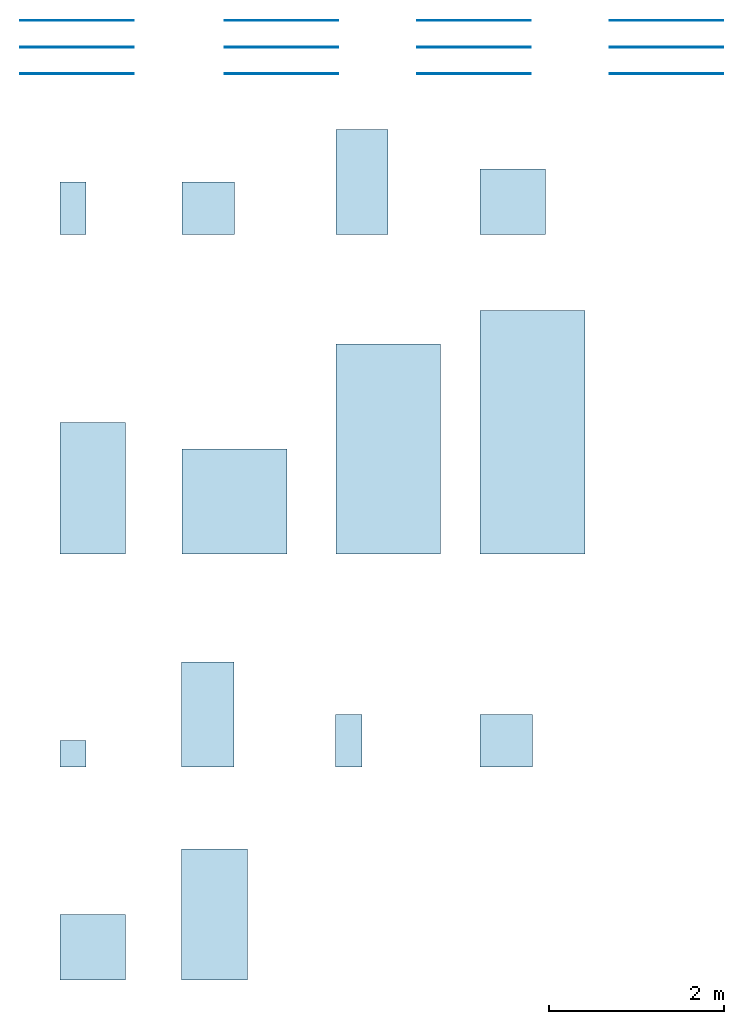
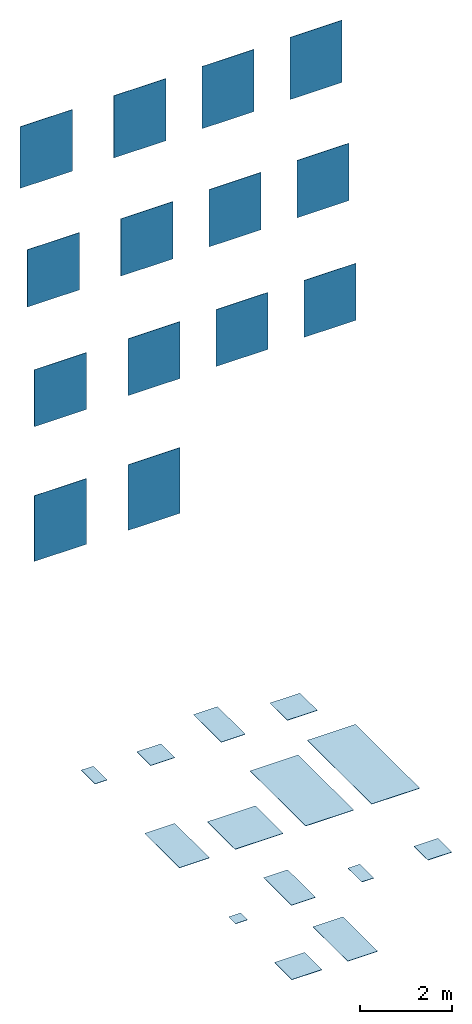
# One storey: 14 slabs, 14 walls.
"""IFC2X3 building model written with IfcOpenShell, lengths in millimetres."""

from ifc_helpers import new_model, entity, si_unit, converted_unit, derived_unit, direction, frame, frame_2d, origin, origin_2d_with_axis, place, context, subcontext, project, spatial, rectangle, extrude, material, layer, layer_set, layer_usage, type_object, element, save


model = new_model("IFC2X3")

# Units and contexts
model_context = context("Model", 3, precision=0.01, world=origin(), true_north=direction((6.12303176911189e-17, 1.0)))
body_context = subcontext(model_context, "Body", "Model", "MODEL_VIEW")
ifc_project = project(units=[si_unit("LENGTHUNIT", "METRE", prefix="MILLI"), si_unit("AREAUNIT", "SQUARE_METRE"), si_unit("VOLUMEUNIT", "CUBIC_METRE"), converted_unit("PLANEANGLEUNIT", "DEGREE", entity("IfcRatioMeasure", 0.0174532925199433), si_unit("PLANEANGLEUNIT", "RADIAN"), dimensions=[0, 0, 0, 0, 0, 0, 0]), si_unit("MASSUNIT", "GRAM", prefix="KILO"), derived_unit("MASSDENSITYUNIT", [(si_unit("MASSUNIT", "GRAM", prefix="KILO"), 1), (si_unit("LENGTHUNIT", "METRE"), -3)]), derived_unit("MOMENTOFINERTIAUNIT", [(si_unit("LENGTHUNIT", "METRE"), 4)]), si_unit("TIMEUNIT", "SECOND"), si_unit("FREQUENCYUNIT", "HERTZ"), si_unit("THERMODYNAMICTEMPERATUREUNIT", "DEGREE_CELSIUS"), derived_unit("THERMALTRANSMITTANCEUNIT", [(si_unit("MASSUNIT", "GRAM", prefix="KILO"), 1), (si_unit("THERMODYNAMICTEMPERATUREUNIT", "KELVIN"), -1), (si_unit("TIMEUNIT", "SECOND"), -3)]), derived_unit("VOLUMETRICFLOWRATEUNIT", [(si_unit("LENGTHUNIT", "METRE"), 3), (si_unit("TIMEUNIT", "SECOND"), -1)]), si_unit("ELECTRICCURRENTUNIT", "AMPERE"), si_unit("ELECTRICVOLTAGEUNIT", "VOLT"), si_unit("POWERUNIT", "WATT"), si_unit("FORCEUNIT", "NEWTON", prefix="KILO"), si_unit("ILLUMINANCEUNIT", "LUX"), si_unit("LUMINOUSFLUXUNIT", "LUMEN"), si_unit("LUMINOUSINTENSITYUNIT", "CANDELA"), derived_unit("USERDEFINED", [(si_unit("MASSUNIT", "GRAM", prefix="KILO"), -1), (si_unit("LENGTHUNIT", "METRE"), -2), (si_unit("TIMEUNIT", "SECOND"), 3), (si_unit("LUMINOUSFLUXUNIT", "LUMEN"), 1)]), derived_unit("LINEARVELOCITYUNIT", [(si_unit("LENGTHUNIT", "METRE"), 1), (si_unit("TIMEUNIT", "SECOND"), -1)]), si_unit("PRESSUREUNIT", "PASCAL"), derived_unit("USERDEFINED", [(si_unit("LENGTHUNIT", "METRE"), -2), (si_unit("MASSUNIT", "GRAM", prefix="KILO"), 1), (si_unit("TIMEUNIT", "SECOND"), -2)]), derived_unit("LINEARFORCEUNIT", [(si_unit("MASSUNIT", "GRAM", prefix="KILO"), 1), (si_unit("LENGTHUNIT", "METRE"), 1), (si_unit("TIMEUNIT", "SECOND"), -2), (si_unit("LENGTHUNIT", "METRE"), -1)]), derived_unit("PLANARFORCEUNIT", [(si_unit("MASSUNIT", "GRAM", prefix="KILO"), 1), (si_unit("LENGTHUNIT", "METRE"), 1), (si_unit("TIMEUNIT", "SECOND"), -2), (si_unit("LENGTHUNIT", "METRE"), -2)])], contexts=[model_context])

# Site, building, storey
site_placement = place(None, origin())
site = spatial("IfcSite", under=ifc_project, at=site_placement, Name="Default", CompositionType="ELEMENT")
building_placement = place(site_placement, origin())
building = spatial("IfcBuilding", under=site, at=building_placement, CompositionType="ELEMENT")
storey_placement = place(building_placement, origin())
storey = spatial("IfcBuildingStorey", under=building, at=storey_placement, Name="Level 0", CompositionType="ELEMENT", Elevation=0.0)

# Slabs
ifc_material_1 = material(Name="Prestigio-Arcadia-Lucido-60x120 NS01")
ifc_layer_1 = layer(ifc_material_1, 9.0)
ifc_material_2 = material(Name="<Unnamed>")
ifc_layer_2 = layer(ifc_material_2, 1.0)
ifc_layer_set_1 = layer_set([ifc_layer_1, ifc_layer_2], Name="Floor:Floor_Tiles_Refin-Prestigio-Arcadia-Lucido-60x120 NS01")
ifc_layer_usage_1 = layer_usage(ifc_layer_set_1, "AXIS3", "POSITIVE", 0.0)
slab_type_1 = type_object("IfcSlabType", Name="Floor:Floor_Tiles_Refin-Prestigio-Arcadia-Lucido-60x120 NS01", PredefinedType="FLOOR", material=ifc_layer_set_1)
slab_1_placement = place(storey_placement, origin())
element("IfcSlab", 1, at=slab_1_placement, inside=storey, type_object=slab_type_1, material=ifc_layer_usage_1, Name="Floor:Floor_Tiles_Refin-Prestigio-Arcadia-Lucido-60x120 NS01", ObjectType="Floor:Floor_Tiles_Refin-Prestigio-Arcadia-Lucido-60x120 NS01", PredefinedType="FLOOR", context=body_context, shape_type="SweptSolid", body=[
    extrude(rectangle(XDim=1200.0, YDim=600.0, at=frame_2d((0.0, 1.08002495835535e-12), x_axis=(1.0, 0.0))), frame((9827.18614186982, 6289.46237428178, 0.0), z_axis=(0.0, 0.0, -1.0), x_axis=(0.0, 1.0, 0.0)), (0.0, 0.0, 1.0), 10.0),
])
ifc_material_3 = material(Name="Prestigio-Arcadia-Lucido-30x60 NG99")
ifc_layer_3 = layer(ifc_material_3, 9.0)
ifc_layer_4 = layer(ifc_material_2, 1.0)
ifc_layer_set_2 = layer_set([ifc_layer_3, ifc_layer_4], Name="Floor:Floor_Tiles_Refin-Prestigio-Arcadia-Lucido-30x60 NG99")
ifc_layer_usage_2 = layer_usage(ifc_layer_set_2, "AXIS3", "POSITIVE", 0.0)
slab_type_2 = type_object("IfcSlabType", Name="Floor:Floor_Tiles_Refin-Prestigio-Arcadia-Lucido-30x60 NG99", PredefinedType="FLOOR", material=ifc_layer_set_2)
slab_2_placement = place(storey_placement, origin())
element("IfcSlab", 2, at=slab_2_placement, inside=storey, type_object=slab_type_2, material=ifc_layer_usage_2, Name="Floor:Floor_Tiles_Refin-Prestigio-Arcadia-Lucido-30x60 NG99", ObjectType="Floor:Floor_Tiles_Refin-Prestigio-Arcadia-Lucido-30x60 NG99", PredefinedType="FLOOR", context=body_context, shape_type="SweptSolid", body=[
    extrude(rectangle(XDim=600.0, YDim=300.0, at=frame_2d((0.0, -5.40012479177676e-13), x_axis=(1.0, 0.0))), frame((6524.37520617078, 5989.4623742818, 0.0), z_axis=(0.0, 0.0, -1.0), x_axis=(0.0, 1.0, 0.0)), (0.0, 0.0, 1.0), 10.0),
])
ifc_material_4 = material(Name="Prestigio-Arcadia-Lucido-120x240 MU09")
ifc_layer_5 = layer(ifc_material_4, 9.0)
ifc_layer_6 = layer(ifc_material_2, 1.0)
ifc_layer_set_3 = layer_set([ifc_layer_5, ifc_layer_6], Name="Floor:Floor_Tiles_Refin-Prestigio-Arcadia-Lucido-120x240 MU09")
ifc_layer_usage_3 = layer_usage(ifc_layer_set_3, "AXIS3", "POSITIVE", 0.0)
slab_type_3 = type_object("IfcSlabType", Name="Floor:Floor_Tiles_Refin-Prestigio-Arcadia-Lucido-120x240 MU09", PredefinedType="FLOOR", material=ifc_layer_set_3)
slab_3_placement = place(storey_placement, origin())
element("IfcSlab", 3, at=slab_3_placement, inside=storey, type_object=slab_type_3, material=ifc_layer_usage_3, Name="Floor:Floor_Tiles_Refin-Prestigio-Arcadia-Lucido-120x240 MU09", ObjectType="Floor:Floor_Tiles_Refin-Prestigio-Arcadia-Lucido-120x240 MU09", PredefinedType="FLOOR", context=body_context, shape_type="SweptSolid", body=[
    extrude(rectangle(XDim=2400.0, YDim=1200.0, at=frame_2d((-3.41060513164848e-13, 0.0), x_axis=(1.0, 0.0))), frame((10127.1861418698, 3239.46237428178, 0.0), z_axis=(0.0, 0.0, -1.0), x_axis=(0.0, 1.0, 0.0)), (0.0, 0.0, 1.0), 10.0),
])
ifc_material_5 = material(Name="Prestigio-Arcadia-Lucido-120x120 MU07")
ifc_layer_7 = layer(ifc_material_5, 9.0)
ifc_layer_8 = layer(ifc_material_2, 1.0)
ifc_layer_set_4 = layer_set([ifc_layer_7, ifc_layer_8], Name="Floor:Floor_Tiles_Refin-Prestigio-Arcadia-Lucido-120x120 MU07")
ifc_layer_usage_4 = layer_usage(ifc_layer_set_4, "AXIS3", "POSITIVE", 0.0)
slab_type_4 = type_object("IfcSlabType", Name="Floor:Floor_Tiles_Refin-Prestigio-Arcadia-Lucido-120x120 MU07", PredefinedType="FLOOR", material=ifc_layer_set_4)
slab_4_placement = place(storey_placement, origin())
element("IfcSlab", 4, at=slab_4_placement, inside=storey, type_object=slab_type_4, material=ifc_layer_usage_4, Name="Floor:Floor_Tiles_Refin-Prestigio-Arcadia-Lucido-120x120 MU07", ObjectType="Floor:Floor_Tiles_Refin-Prestigio-Arcadia-Lucido-120x120 MU07", PredefinedType="FLOOR", context=body_context, shape_type="SweptSolid", body=[
    extrude(rectangle(XDim=1200.0, YDim=1200.0, at=origin_2d_with_axis()), frame((8367.39240545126, 2639.4623742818, 0.0), z_axis=(0.0, 0.0, -1.0), x_axis=(0.0, 1.0, 0.0)), (0.0, 0.0, 1.0), 10.0),
])
ifc_material_6 = material(Name="Prestigio-Arcadia-Lucido-75x150 LU55")
ifc_layer_9 = layer(ifc_material_6, 9.0)
ifc_layer_10 = layer(ifc_material_2, 1.0)
ifc_layer_set_5 = layer_set([ifc_layer_9, ifc_layer_10], Name="Floor:Floor_Tiles_Refin-Prestigio-Arcadia-Lucido-75x150 LU55")
ifc_layer_usage_5 = layer_usage(ifc_layer_set_5, "AXIS3", "POSITIVE", 0.0)
slab_type_5 = type_object("IfcSlabType", Name="Floor:Floor_Tiles_Refin-Prestigio-Arcadia-Lucido-75x150 LU55", PredefinedType="FLOOR", material=ifc_layer_set_5)
slab_5_placement = place(storey_placement, origin())
element("IfcSlab", 5, at=slab_5_placement, inside=storey, type_object=slab_type_5, material=ifc_layer_usage_5, Name="Floor:Floor_Tiles_Refin-Prestigio-Arcadia-Lucido-75x150 LU55", ObjectType="Floor:Floor_Tiles_Refin-Prestigio-Arcadia-Lucido-75x150 LU55", PredefinedType="FLOOR", context=body_context, shape_type="SweptSolid", body=[
    extrude(rectangle(XDim=1500.0, YDim=750.000000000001, at=frame_2d((0.0, 1.08002495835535e-12), x_axis=(1.0, 0.0))), frame((6749.37520617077, 2789.4623742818, 0.0), z_axis=(0.0, 0.0, -1.0), x_axis=(0.0, 1.0, 0.0)), (0.0, 0.0, 1.0), 10.0),
])
ifc_material_7 = material(Name="Prestigio-Arcadia-Lucido-Mosaico-30x30 LX38")
ifc_layer_11 = layer(ifc_material_7, 9.0)
ifc_layer_12 = layer(ifc_material_2, 1.0)
ifc_layer_set_6 = layer_set([ifc_layer_11, ifc_layer_12], Name="Floor:Floor_Tiles_Refin-Prestigio-Arcadia-Lucido-Mosaico-30x30 LX38")
ifc_layer_usage_6 = layer_usage(ifc_layer_set_6, "AXIS3", "POSITIVE", 0.0)
slab_type_6 = type_object("IfcSlabType", Name="Floor:Floor_Tiles_Refin-Prestigio-Arcadia-Lucido-Mosaico-30x30 LX38", PredefinedType="FLOOR", material=ifc_layer_set_6)
slab_6_placement = place(storey_placement, origin())
element("IfcSlab", 6, at=slab_6_placement, inside=storey, type_object=slab_type_6, material=ifc_layer_usage_6, Name="Floor:Floor_Tiles_Refin-Prestigio-Arcadia-Lucido-Mosaico-30x30 LX38", ObjectType="Floor:Floor_Tiles_Refin-Prestigio-Arcadia-Lucido-Mosaico-30x30 LX38", PredefinedType="FLOOR", context=body_context, shape_type="SweptSolid", body=[
    extrude(rectangle(XDim=300.0, YDim=300.0, at=frame_2d((0.0, -5.40012479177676e-13), x_axis=(1.0, 0.0))), frame((6522.60093306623, -246.563276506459, 0.0), z_axis=(0.0, 0.0, -1.0), x_axis=(0.0, 1.0, 0.0)), (0.0, 0.0, 1.0), 10.0),
])
ifc_material_8 = material(Name="Prestigio-Arcadia-Lucido-60x60 LU91")
ifc_layer_13 = layer(ifc_material_8, 9.0)
ifc_layer_14 = layer(ifc_material_2, 1.0)
ifc_layer_set_7 = layer_set([ifc_layer_13, ifc_layer_14], Name="Floor:Floor_Tiles_Refin-Prestigio-Arcadia-Lucido-60x60 LU91")
ifc_layer_usage_7 = layer_usage(ifc_layer_set_7, "AXIS3", "POSITIVE", 0.0)
slab_type_7 = type_object("IfcSlabType", Name="Floor:Floor_Tiles_Refin-Prestigio-Arcadia-Lucido-60x60 LU91", PredefinedType="FLOOR", material=ifc_layer_set_7)
slab_7_placement = place(storey_placement, origin())
element("IfcSlab", 7, at=slab_7_placement, inside=storey, type_object=slab_type_7, material=ifc_layer_usage_7, Name="Floor:Floor_Tiles_Refin-Prestigio-Arcadia-Lucido-60x60 LU91", ObjectType="Floor:Floor_Tiles_Refin-Prestigio-Arcadia-Lucido-60x60 LU91", PredefinedType="FLOOR", context=body_context, shape_type="SweptSolid", body=[
    extrude(rectangle(XDim=600.0, YDim=600.0, at=origin_2d_with_axis()), frame((8067.39240545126, 5988.41920639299, 0.0), z_axis=(0.0, 0.0, -1.0), x_axis=(0.0, 1.0, 0.0)), (0.0, 0.0, 1.0), 10.0),
])
ifc_material_9 = material(Name="Prestigio-Arcadia-Matt-60x120 NS06")
ifc_layer_15 = layer(ifc_material_9, 9.0)
ifc_layer_16 = layer(ifc_material_2, 1.0)
ifc_layer_set_8 = layer_set([ifc_layer_15, ifc_layer_16], Name="Floor:Floor_Tiles_Refin-Prestigio-Arcadia-Matt-60x120 NS06")
ifc_layer_usage_8 = layer_usage(ifc_layer_set_8, "AXIS3", "POSITIVE", 0.0)
slab_type_8 = type_object("IfcSlabType", Name="Floor:Floor_Tiles_Refin-Prestigio-Arcadia-Matt-60x120 NS06", PredefinedType="FLOOR", material=ifc_layer_set_8)
slab_8_placement = place(storey_placement, origin())
element("IfcSlab", 8, at=slab_8_placement, inside=storey, type_object=slab_type_8, material=ifc_layer_usage_8, Name="Floor:Floor_Tiles_Refin-Prestigio-Arcadia-Matt-60x120 NS06", ObjectType="Floor:Floor_Tiles_Refin-Prestigio-Arcadia-Matt-60x120 NS06", PredefinedType="FLOOR", context=body_context, shape_type="SweptSolid", body=[
    extrude(rectangle(XDim=1200.0, YDim=600.0, at=frame_2d((0.0, 1.08002495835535e-12), x_axis=(1.0, 0.0))), frame((8065.61813234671, 203.436723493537, 0.0), z_axis=(0.0, 0.0, -1.0), x_axis=(0.0, 1.0, 0.0)), (0.0, 0.0, 1.0), 10.0),
])
ifc_material_10 = material(Name="Prestigio-Arcadia-Soft-30x60 NE83")
ifc_layer_17 = layer(ifc_material_10, 9.0)
ifc_layer_18 = layer(ifc_material_2, 1.0)
ifc_layer_set_9 = layer_set([ifc_layer_17, ifc_layer_18], Name="Floor:Floor_Tiles_Refin-Prestigio-Arcadia-Soft-30x60 NE83")
ifc_layer_usage_9 = layer_usage(ifc_layer_set_9, "AXIS3", "POSITIVE", 0.0)
slab_type_9 = type_object("IfcSlabType", Name="Floor:Floor_Tiles_Refin-Prestigio-Arcadia-Soft-30x60 NE83", PredefinedType="FLOOR", material=ifc_layer_set_9)
slab_9_placement = place(storey_placement, origin())
element("IfcSlab", 9, at=slab_9_placement, inside=storey, type_object=slab_type_9, material=ifc_layer_usage_9, Name="Floor:Floor_Tiles_Refin-Prestigio-Arcadia-Soft-30x60 NE83", ObjectType="Floor:Floor_Tiles_Refin-Prestigio-Arcadia-Soft-30x60 NE83", PredefinedType="FLOOR", context=body_context, shape_type="SweptSolid", body=[
    extrude(rectangle(XDim=600.0, YDim=300.000000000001, at=origin_2d_with_axis()), frame((9675.41186876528, -96.5632765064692, 0.0), z_axis=(0.0, 0.0, -1.0), x_axis=(0.0, 1.0, 0.0)), (0.0, 0.0, 1.0), 10.0),
])
ifc_material_11 = material(Name="Prestigio-Arcadia-Lucido-75x75 LU87")
ifc_layer_19 = layer(ifc_material_11, 9.0)
ifc_layer_20 = layer(ifc_material_2, 1.0)
ifc_layer_set_10 = layer_set([ifc_layer_19, ifc_layer_20], Name="Floor:Floor_Tiles_Refin-Prestigio-Arcadia-Lucido-75x75 LU87")
ifc_layer_usage_10 = layer_usage(ifc_layer_set_10, "AXIS3", "POSITIVE", 0.0)
slab_type_10 = type_object("IfcSlabType", Name="Floor:Floor_Tiles_Refin-Prestigio-Arcadia-Lucido-75x75 LU87", PredefinedType="FLOOR", material=ifc_layer_set_10)
slab_10_placement = place(storey_placement, origin())
element("IfcSlab", 10, at=slab_10_placement, inside=storey, type_object=slab_type_10, material=ifc_layer_usage_10, Name="Floor:Floor_Tiles_Refin-Prestigio-Arcadia-Lucido-75x75 LU87", ObjectType="Floor:Floor_Tiles_Refin-Prestigio-Arcadia-Lucido-75x75 LU87", PredefinedType="FLOOR", context=body_context, shape_type="SweptSolid", body=[
    extrude(rectangle(XDim=750.0, YDim=750.000000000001, at=frame_2d((-5.40012479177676e-13, 1.08002495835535e-12), x_axis=(1.0, 0.0))), frame((11552.1861418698, 6064.46237428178, 0.0), z_axis=(0.0, 0.0, -1.0), x_axis=(0.0, 1.0, 0.0)), (0.0, 0.0, 1.0), 10.0),
])
ifc_material_12 = material(Name="Prestigio-Arcadia-Lucido-120x278 MK92")
ifc_layer_21 = layer(ifc_material_12, 9.0)
ifc_layer_22 = layer(ifc_material_2, 1.0)
ifc_layer_set_11 = layer_set([ifc_layer_21, ifc_layer_22], Name="Floor:Floor_Tiles_Refin-Prestigio-Arcadia-Lucido-120x278 MK92")
ifc_layer_usage_11 = layer_usage(ifc_layer_set_11, "AXIS3", "POSITIVE", 0.0)
slab_type_11 = type_object("IfcSlabType", Name="Floor:Floor_Tiles_Refin-Prestigio-Arcadia-Lucido-120x278 MK92", PredefinedType="FLOOR", material=ifc_layer_set_11)
slab_11_placement = place(storey_placement, origin())
element("IfcSlab", 11, at=slab_11_placement, inside=storey, type_object=slab_type_11, material=ifc_layer_usage_11, Name="Floor:Floor_Tiles_Refin-Prestigio-Arcadia-Lucido-120x278 MK92", ObjectType="Floor:Floor_Tiles_Refin-Prestigio-Arcadia-Lucido-120x278 MK92", PredefinedType="FLOOR", context=body_context, shape_type="SweptSolid", body=[
    extrude(rectangle(XDim=2780.0, YDim=1200.0, at=frame_2d((3.41060513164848e-13, 0.0), x_axis=(1.0, 0.0))), frame((11777.1861418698, 3429.46237428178, 0.0), z_axis=(0.0, 0.0, -1.0), x_axis=(0.0, 1.0, 0.0)), (0.0, 0.0, 1.0), 10.0),
])
ifc_material_13 = material(Name="Prestigio-Arcadia-Soft-60x60 LV01")
ifc_layer_23 = layer(ifc_material_13, 9.0)
ifc_layer_24 = layer(ifc_material_2, 1.0)
ifc_layer_set_12 = layer_set([ifc_layer_23, ifc_layer_24], Name="Floor:Floor_Tiles_Refin-Prestigio-Arcadia-Soft-60x60 LV01")
ifc_layer_usage_12 = layer_usage(ifc_layer_set_12, "AXIS3", "POSITIVE", 0.0)
slab_type_12 = type_object("IfcSlabType", Name="Floor:Floor_Tiles_Refin-Prestigio-Arcadia-Soft-60x60 LV01", PredefinedType="FLOOR", material=ifc_layer_set_12)
slab_12_placement = place(storey_placement, origin())
element("IfcSlab", 12, at=slab_12_placement, inside=storey, type_object=slab_type_12, material=ifc_layer_usage_12, Name="Floor:Floor_Tiles_Refin-Prestigio-Arcadia-Soft-60x60 LV01", ObjectType="Floor:Floor_Tiles_Refin-Prestigio-Arcadia-Soft-60x60 LV01", PredefinedType="FLOOR", context=body_context, shape_type="SweptSolid", body=[
    extrude(rectangle(XDim=600.0, YDim=600.0, at=frame_2d((0.0, 1.08002495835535e-12), x_axis=(1.0, 0.0))), frame((11475.4118687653, -96.5632765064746, 0.0), z_axis=(0.0, 0.0, -1.0), x_axis=(0.0, 1.0, 0.0)), (0.0, 0.0, 1.0), 10.0),
])
ifc_material_14 = material(Name="Prestigio-Arcadia-Soft-75x75 LU97")
ifc_layer_25 = layer(ifc_material_14, 9.0)
ifc_layer_26 = layer(ifc_material_2, 1.0)
ifc_layer_set_13 = layer_set([ifc_layer_25, ifc_layer_26], Name="Floor:Floor_Tiles_Refin-Prestigio-Arcadia-Soft-75x75 LU97")
ifc_layer_usage_13 = layer_usage(ifc_layer_set_13, "AXIS3", "POSITIVE", 0.0)
slab_type_13 = type_object("IfcSlabType", Name="Floor:Floor_Tiles_Refin-Prestigio-Arcadia-Soft-75x75 LU97", PredefinedType="FLOOR", material=ifc_layer_set_13)
slab_13_placement = place(storey_placement, origin())
element("IfcSlab", 13, at=slab_13_placement, inside=storey, type_object=slab_type_13, material=ifc_layer_usage_13, Name="Floor:Floor_Tiles_Refin-Prestigio-Arcadia-Soft-75x75 LU97", ObjectType="Floor:Floor_Tiles_Refin-Prestigio-Arcadia-Soft-75x75 LU97", PredefinedType="FLOOR", context=body_context, shape_type="SweptSolid", body=[
    extrude(rectangle(XDim=750.0, YDim=750.000000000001, at=frame_2d((-2.55795384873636e-13, -1.08002495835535e-12), x_axis=(1.0, 0.0))), frame((6747.60093306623, -2457.58892729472, 0.0), z_axis=(0.0, 0.0, -1.0), x_axis=(0.0, 1.0, 0.0)), (0.0, 0.0, 1.0), 10.0),
])
ifc_material_15 = material(Name="Prestigio-Arcadia-Soft-75x150 LU59")
ifc_layer_27 = layer(ifc_material_15, 9.0)
ifc_layer_28 = layer(ifc_material_2, 1.0)
ifc_layer_set_14 = layer_set([ifc_layer_27, ifc_layer_28], Name="Floor:Floor_Tiles_Refin-Prestigio-Arcadia-Soft-75x150 LU59")
ifc_layer_usage_14 = layer_usage(ifc_layer_set_14, "AXIS3", "POSITIVE", 0.0)
slab_type_14 = type_object("IfcSlabType", Name="Floor:Floor_Tiles_Refin-Prestigio-Arcadia-Soft-75x150 LU59", PredefinedType="FLOOR", material=ifc_layer_set_14)
slab_14_placement = place(storey_placement, origin())
element("IfcSlab", 14, at=slab_14_placement, inside=storey, type_object=slab_type_14, material=ifc_layer_usage_14, Name="Floor:Floor_Tiles_Refin-Prestigio-Arcadia-Soft-75x150 LU59", ObjectType="Floor:Floor_Tiles_Refin-Prestigio-Arcadia-Soft-75x150 LU59", PredefinedType="FLOOR", context=body_context, shape_type="SweptSolid", body=[
    extrude(rectangle(XDim=1500.0, YDim=750.000000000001, at=frame_2d((0.0, -1.08002495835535e-12), x_axis=(1.0, 0.0))), frame((8140.61813234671, -2082.58892729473, 0.0), z_axis=(0.0, 0.0, -1.0), x_axis=(0.0, 1.0, 0.0)), (0.0, 0.0, 1.0), 10.0),
])

# Walls
ifc_layer_29 = layer(ifc_material_2, 1.0)
ifc_layer_30 = layer(ifc_material_8, 9.0)
ifc_layer_set_15 = layer_set([ifc_layer_29, ifc_layer_30], Name="Basic Wall:Wall_Tiles_Refin-Prestigio-Arcadia-Lucido-60x60 LU91")
ifc_layer_usage_15 = layer_usage(ifc_layer_set_15, "AXIS2", "NEGATIVE", 5.0)
wall_type_1 = type_object("IfcWallType", Name="Basic Wall:Wall_Tiles_Refin-Prestigio-Arcadia-Lucido-60x60 LU91", PredefinedType="STANDARD", material=ifc_layer_set_15)
wall_1_placement = place(storey_placement, frame((8257.37520617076, 8137.38386313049, 14387.6770443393)))
element("IfcWallStandardCase", 15, at=wall_1_placement, inside=storey, type_object=wall_type_1, material=ifc_layer_usage_15, Name="Basic Wall:Wall_Tiles_Refin-Prestigio-Arcadia-Lucido-60x60 LU91", ObjectType="Basic Wall:Wall_Tiles_Refin-Prestigio-Arcadia-Lucido-60x60 LU91", context=body_context, shape_type="SweptSolid", body=[
    extrude(rectangle(XDim=1300.0, YDim=9.99999999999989, at=frame_2d((650.0, 7.63833440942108e-14), x_axis=(-1.0, 0.0))), origin(), (0.0, 0.0, 1.0), 1641.74173522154),
])
ifc_layer_31 = layer(ifc_material_2, 1.0)
ifc_layer_32 = layer(ifc_material_1, 9.0)
ifc_layer_set_16 = layer_set([ifc_layer_31, ifc_layer_32], Name="Basic Wall:Wall_Tiles_Refin-Prestigio-Arcadia-Lucido-60x120 NS01")
ifc_layer_usage_16 = layer_usage(ifc_layer_set_16, "AXIS2", "NEGATIVE", 5.0)
wall_type_2 = type_object("IfcWallType", Name="Basic Wall:Wall_Tiles_Refin-Prestigio-Arcadia-Lucido-60x120 NS01", PredefinedType="STANDARD", material=ifc_layer_set_16)
wall_2_placement = place(storey_placement, frame((10457.3752061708, 8137.38386313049, 14387.6770443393)))
element("IfcWallStandardCase", 16, at=wall_2_placement, inside=storey, type_object=wall_type_2, material=ifc_layer_usage_16, Name="Basic Wall:Wall_Tiles_Refin-Prestigio-Arcadia-Lucido-60x120 NS01", ObjectType="Basic Wall:Wall_Tiles_Refin-Prestigio-Arcadia-Lucido-60x120 NS01", context=body_context, shape_type="SweptSolid", body=[
    extrude(rectangle(XDim=1300.0, YDim=9.99999999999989, at=frame_2d((650.0, 7.63833440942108e-14), x_axis=(-1.0, 0.0))), origin(), (0.0, 0.0, 1.0), 1641.74173522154),
])
ifc_layer_33 = layer(ifc_material_2, 1.0)
ifc_layer_34 = layer(ifc_material_3, 9.0)
ifc_layer_set_17 = layer_set([ifc_layer_33, ifc_layer_34], Name="Basic Wall:Wall_Tiles_Refin-Prestigio-Arcadia-Lucido-30x60 NG99")
ifc_layer_usage_17 = layer_usage(ifc_layer_set_17, "AXIS2", "NEGATIVE", 5.0)
wall_type_3 = type_object("IfcWallType", Name="Basic Wall:Wall_Tiles_Refin-Prestigio-Arcadia-Lucido-30x60 NG99", PredefinedType="STANDARD", material=ifc_layer_set_17)
wall_3_placement = place(storey_placement, frame((5917.37520617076, 8137.38386313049, 14403.726734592)))
element("IfcWallStandardCase", 17, at=wall_3_placement, inside=storey, type_object=wall_type_3, material=ifc_layer_usage_17, Name="Basic Wall:Wall_Tiles_Refin-Prestigio-Arcadia-Lucido-30x60 NG99", ObjectType="Basic Wall:Wall_Tiles_Refin-Prestigio-Arcadia-Lucido-30x60 NG99", context=body_context, shape_type="SweptSolid", body=[
    extrude(rectangle(XDim=1300.0, YDim=9.99999999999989, at=frame_2d((650.0, 7.63833440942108e-14), x_axis=(-1.0, 0.0))), origin(), (0.0, 0.0, 1.0), 1625.69204496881),
])
ifc_layer_35 = layer(ifc_material_2, 1.0)
ifc_layer_36 = layer(ifc_material_6, 9.0)
ifc_layer_set_18 = layer_set([ifc_layer_35, ifc_layer_36], Name="Basic Wall:Wall_Tiles_Refin-Prestigio-Arcadia-Lucido-75x150 LU55")
ifc_layer_usage_18 = layer_usage(ifc_layer_set_18, "AXIS2", "NEGATIVE", 5.0)
wall_type_4 = type_object("IfcWallType", Name="Basic Wall:Wall_Tiles_Refin-Prestigio-Arcadia-Lucido-75x150 LU55", PredefinedType="STANDARD", material=ifc_layer_set_18)
wall_4_placement = place(storey_placement, frame((5917.37520617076, 7832.38386313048, 11452.5436262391)))
element("IfcWallStandardCase", 18, at=wall_4_placement, inside=storey, type_object=wall_type_4, material=ifc_layer_usage_18, Name="Basic Wall:Wall_Tiles_Refin-Prestigio-Arcadia-Lucido-75x150 LU55", ObjectType="Basic Wall:Wall_Tiles_Refin-Prestigio-Arcadia-Lucido-75x150 LU55", context=body_context, shape_type="SweptSolid", body=[
    extrude(rectangle(XDim=1300.0, YDim=9.99999999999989, at=frame_2d((650.0, 0.0), x_axis=(-1.0, 0.0))), origin(), (0.0, 0.0, 1.0), 1513.19855655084),
])
ifc_layer_37 = layer(ifc_material_2, 1.0)
ifc_layer_38 = layer(ifc_material_5, 9.0)
ifc_layer_set_19 = layer_set([ifc_layer_37, ifc_layer_38], Name="Basic Wall:Wall_Tiles_Refin-Prestigio-Arcadia-Lucido-120x120 MU07")
ifc_layer_usage_19 = layer_usage(ifc_layer_set_19, "AXIS2", "NEGATIVE", 5.0)
wall_type_5 = type_object("IfcWallType", Name="Basic Wall:Wall_Tiles_Refin-Prestigio-Arcadia-Lucido-120x120 MU07", PredefinedType="STANDARD", material=ifc_layer_set_19)
wall_5_placement = place(storey_placement, frame((8257.37520617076, 7832.38386313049, 11452.5436262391)))
element("IfcWallStandardCase", 19, at=wall_5_placement, inside=storey, type_object=wall_type_5, material=ifc_layer_usage_19, Name="Basic Wall:Wall_Tiles_Refin-Prestigio-Arcadia-Lucido-120x120 MU07", ObjectType="Basic Wall:Wall_Tiles_Refin-Prestigio-Arcadia-Lucido-120x120 MU07", context=body_context, shape_type="SweptSolid", body=[
    extrude(rectangle(XDim=1300.0, YDim=9.99999999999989, at=frame_2d((650.0, 0.0), x_axis=(-1.0, 0.0))), origin(), (0.0, 0.0, 1.0), 1513.19855655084),
])
ifc_layer_39 = layer(ifc_material_2, 1.0)
ifc_layer_40 = layer(ifc_material_4, 9.0)
ifc_layer_set_20 = layer_set([ifc_layer_39, ifc_layer_40], Name="Basic Wall:Wall_Tiles_Refin-Prestigio-Arcadia-Lucido-120x240 MU09")
ifc_layer_usage_20 = layer_usage(ifc_layer_set_20, "AXIS2", "NEGATIVE", 5.0)
wall_type_6 = type_object("IfcWallType", Name="Basic Wall:Wall_Tiles_Refin-Prestigio-Arcadia-Lucido-120x240 MU09", PredefinedType="STANDARD", material=ifc_layer_set_20)
wall_6_placement = place(storey_placement, frame((10457.3752061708, 7832.38386313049, 11452.5436262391)))
element("IfcWallStandardCase", 20, at=wall_6_placement, inside=storey, type_object=wall_type_6, material=ifc_layer_usage_20, Name="Basic Wall:Wall_Tiles_Refin-Prestigio-Arcadia-Lucido-120x240 MU09", ObjectType="Basic Wall:Wall_Tiles_Refin-Prestigio-Arcadia-Lucido-120x240 MU09", context=body_context, shape_type="SweptSolid", body=[
    extrude(rectangle(XDim=1300.0, YDim=9.99999999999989, at=frame_2d((650.000000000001, 0.0), x_axis=(-1.0, 0.0))), origin(), (0.0, 0.0, 1.0), 1513.19855655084),
])
ifc_layer_41 = layer(ifc_material_2, 1.0)
ifc_layer_42 = layer(ifc_material_7, 9.0)
ifc_layer_set_21 = layer_set([ifc_layer_41, ifc_layer_42], Name="Basic Wall:Wall_Tiles_Refin-Prestigio-Arcadia-Lucido-Mosaico-30x30 LX38")
ifc_layer_usage_21 = layer_usage(ifc_layer_set_21, "AXIS2", "NEGATIVE", 5.0)
wall_type_7 = type_object("IfcWallType", Name="Basic Wall:Wall_Tiles_Refin-Prestigio-Arcadia-Lucido-Mosaico-30x30 LX38", PredefinedType="STANDARD", material=ifc_layer_set_21)
wall_7_placement = place(storey_placement, frame((5917.37520617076, 7527.38386313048, 8479.10272143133)))
element("IfcWallStandardCase", 21, at=wall_7_placement, inside=storey, type_object=wall_type_7, material=ifc_layer_usage_21, Name="Basic Wall:Wall_Tiles_Refin-Prestigio-Arcadia-Lucido-Mosaico-30x30 LX38", ObjectType="Basic Wall:Wall_Tiles_Refin-Prestigio-Arcadia-Lucido-Mosaico-30x30 LX38", context=body_context, shape_type="SweptSolid", body=[
    extrude(rectangle(XDim=1300.0, YDim=9.99999999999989, at=frame_2d((650.0, 0.0), x_axis=(-1.0, 0.0))), origin(), (0.0, 0.0, 1.0), 1502.57401590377),
])
ifc_layer_43 = layer(ifc_material_2, 1.0)
ifc_layer_44 = layer(ifc_material_9, 9.0)
ifc_layer_set_22 = layer_set([ifc_layer_43, ifc_layer_44], Name="Basic Wall:Wall_Tiles_Refin-Prestigio-Arcadia-Matt-60x120 NS06")
ifc_layer_usage_22 = layer_usage(ifc_layer_set_22, "AXIS2", "NEGATIVE", 5.0)
wall_type_8 = type_object("IfcWallType", Name="Basic Wall:Wall_Tiles_Refin-Prestigio-Arcadia-Matt-60x120 NS06", PredefinedType="STANDARD", material=ifc_layer_set_22)
wall_8_placement = place(storey_placement, frame((8257.37520617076, 7527.38386313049, 8479.10272143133)))
element("IfcWallStandardCase", 22, at=wall_8_placement, inside=storey, type_object=wall_type_8, material=ifc_layer_usage_22, Name="Basic Wall:Wall_Tiles_Refin-Prestigio-Arcadia-Matt-60x120 NS06", ObjectType="Basic Wall:Wall_Tiles_Refin-Prestigio-Arcadia-Matt-60x120 NS06", context=body_context, shape_type="SweptSolid", body=[
    extrude(rectangle(XDim=1300.0, YDim=9.99999999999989, at=frame_2d((650.0, 0.0), x_axis=(-1.0, 0.0))), origin(), (0.0, 0.0, 1.0), 1502.57401590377),
])
ifc_layer_45 = layer(ifc_material_2, 1.0)
ifc_layer_46 = layer(ifc_material_10, 9.0)
ifc_layer_set_23 = layer_set([ifc_layer_45, ifc_layer_46], Name="Basic Wall:Wall_Tiles_Refin-Prestigio-Arcadia-Soft-30x60 NE83")
ifc_layer_usage_23 = layer_usage(ifc_layer_set_23, "AXIS2", "NEGATIVE", 5.0)
wall_type_9 = type_object("IfcWallType", Name="Basic Wall:Wall_Tiles_Refin-Prestigio-Arcadia-Soft-30x60 NE83", PredefinedType="STANDARD", material=ifc_layer_set_23)
wall_9_placement = place(storey_placement, frame((10457.3752061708, 7527.38386313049, 8479.10272143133)))
element("IfcWallStandardCase", 23, at=wall_9_placement, inside=storey, type_object=wall_type_9, material=ifc_layer_usage_23, Name="Basic Wall:Wall_Tiles_Refin-Prestigio-Arcadia-Soft-30x60 NE83", ObjectType="Basic Wall:Wall_Tiles_Refin-Prestigio-Arcadia-Soft-30x60 NE83", context=body_context, shape_type="SweptSolid", body=[
    extrude(rectangle(XDim=1300.0, YDim=9.99999999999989, at=frame_2d((650.000000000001, 0.0), x_axis=(-1.0, 0.0))), origin(), (0.0, 0.0, 1.0), 1502.57401590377),
])
ifc_layer_47 = layer(ifc_material_2, 1.0)
ifc_layer_48 = layer(ifc_material_11, 9.0)
ifc_layer_set_24 = layer_set([ifc_layer_47, ifc_layer_48], Name="Basic Wall:Wall_Tiles_Refin-Prestigio-Arcadia-Lucido-75x75 LU87")
ifc_layer_usage_24 = layer_usage(ifc_layer_set_24, "AXIS2", "NEGATIVE", 5.0)
wall_type_10 = type_object("IfcWallType", Name="Basic Wall:Wall_Tiles_Refin-Prestigio-Arcadia-Lucido-75x75 LU87", PredefinedType="STANDARD", material=ifc_layer_set_24)
wall_10_placement = place(storey_placement, frame((12657.3752061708, 8137.3838631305, 14387.6770443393)))
element("IfcWallStandardCase", 24, at=wall_10_placement, inside=storey, type_object=wall_type_10, material=ifc_layer_usage_24, Name="Basic Wall:Wall_Tiles_Refin-Prestigio-Arcadia-Lucido-75x75 LU87", ObjectType="Basic Wall:Wall_Tiles_Refin-Prestigio-Arcadia-Lucido-75x75 LU87", context=body_context, shape_type="SweptSolid", body=[
    extrude(rectangle(XDim=1300.0, YDim=9.99999999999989, at=frame_2d((650.0, 7.63833440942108e-14), x_axis=(-1.0, 0.0))), origin(), (0.0, 0.0, 1.0), 1641.74173522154),
])
ifc_layer_49 = layer(ifc_material_2, 1.0)
ifc_layer_50 = layer(ifc_material_12, 9.0)
ifc_layer_set_25 = layer_set([ifc_layer_49, ifc_layer_50], Name="Basic Wall:Wall_Tiles_Refin-Prestigio-Arcadia-Lucido-120x278 MK92")
ifc_layer_usage_25 = layer_usage(ifc_layer_set_25, "AXIS2", "NEGATIVE", 5.0)
wall_type_11 = type_object("IfcWallType", Name="Basic Wall:Wall_Tiles_Refin-Prestigio-Arcadia-Lucido-120x278 MK92", PredefinedType="STANDARD", material=ifc_layer_set_25)
wall_11_placement = place(storey_placement, frame((12657.3752061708, 7832.3838631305, 11452.5436262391)))
element("IfcWallStandardCase", 25, at=wall_11_placement, inside=storey, type_object=wall_type_11, material=ifc_layer_usage_25, Name="Basic Wall:Wall_Tiles_Refin-Prestigio-Arcadia-Lucido-120x278 MK92", ObjectType="Basic Wall:Wall_Tiles_Refin-Prestigio-Arcadia-Lucido-120x278 MK92", context=body_context, shape_type="SweptSolid", body=[
    extrude(rectangle(XDim=1300.0, YDim=9.99999999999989, at=frame_2d((650.0, 0.0), x_axis=(-1.0, 0.0))), origin(), (0.0, 0.0, 1.0), 1513.19855655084),
])
ifc_layer_51 = layer(ifc_material_2, 1.0)
ifc_layer_52 = layer(ifc_material_13, 9.0)
ifc_layer_set_26 = layer_set([ifc_layer_51, ifc_layer_52], Name="Basic Wall:Wall_Tiles_Refin-Prestigio-Arcadia-Soft-60x60 LV01")
ifc_layer_usage_26 = layer_usage(ifc_layer_set_26, "AXIS2", "NEGATIVE", 5.0)
wall_type_12 = type_object("IfcWallType", Name="Basic Wall:Wall_Tiles_Refin-Prestigio-Arcadia-Soft-60x60 LV01", PredefinedType="STANDARD", material=ifc_layer_set_26)
wall_12_placement = place(storey_placement, frame((12657.3752061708, 7527.3838631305, 8479.10272143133)))
element("IfcWallStandardCase", 26, at=wall_12_placement, inside=storey, type_object=wall_type_12, material=ifc_layer_usage_26, Name="Basic Wall:Wall_Tiles_Refin-Prestigio-Arcadia-Soft-60x60 LV01", ObjectType="Basic Wall:Wall_Tiles_Refin-Prestigio-Arcadia-Soft-60x60 LV01", context=body_context, shape_type="SweptSolid", body=[
    extrude(rectangle(XDim=1300.0, YDim=9.99999999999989, at=frame_2d((650.0, 0.0), x_axis=(-1.0, 0.0))), origin(), (0.0, 0.0, 1.0), 1502.57401590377),
])
ifc_layer_53 = layer(ifc_material_2, 1.0)
ifc_layer_54 = layer(ifc_material_15, 9.0)
ifc_layer_set_27 = layer_set([ifc_layer_53, ifc_layer_54], Name="Basic Wall:Wall_Tiles_Refin-Prestigio-Arcadia-Soft-75x150 LU59")
ifc_layer_usage_27 = layer_usage(ifc_layer_set_27, "AXIS2", "NEGATIVE", 5.0)
wall_type_13 = type_object("IfcWallType", Name="Basic Wall:Wall_Tiles_Refin-Prestigio-Arcadia-Soft-75x150 LU59", PredefinedType="STANDARD", material=ifc_layer_set_27)
wall_13_placement = place(storey_placement, frame((8257.37520617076, 7527.38386313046, 4921.07859745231)))
element("IfcWallStandardCase", 27, at=wall_13_placement, inside=storey, type_object=wall_type_13, material=ifc_layer_usage_27, Name="Basic Wall:Wall_Tiles_Refin-Prestigio-Arcadia-Soft-75x150 LU59", ObjectType="Basic Wall:Wall_Tiles_Refin-Prestigio-Arcadia-Soft-75x150 LU59", context=body_context, shape_type="SweptSolid", body=[
    extrude(rectangle(XDim=1300.0, YDim=9.99999999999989, at=frame_2d((650.0, 0.0), x_axis=(-1.0, 0.0))), origin(), (0.0, 0.0, 1.0), 1733.84304651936),
])
ifc_layer_55 = layer(ifc_material_2, 1.0)
ifc_layer_56 = layer(ifc_material_14, 9.0)
ifc_layer_set_28 = layer_set([ifc_layer_55, ifc_layer_56], Name="Basic Wall:Wall_Tiles_Refin-Prestigio-Arcadia-Soft-75x75 LU97")
ifc_layer_usage_28 = layer_usage(ifc_layer_set_28, "AXIS2", "NEGATIVE", 5.0)
wall_type_14 = type_object("IfcWallType", Name="Basic Wall:Wall_Tiles_Refin-Prestigio-Arcadia-Soft-75x75 LU97", PredefinedType="STANDARD", material=ifc_layer_set_28)
wall_14_placement = place(storey_placement, frame((5917.37520617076, 7527.38386313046, 4921.07859745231)))
element("IfcWallStandardCase", 28, at=wall_14_placement, inside=storey, type_object=wall_type_14, material=ifc_layer_usage_28, Name="Basic Wall:Wall_Tiles_Refin-Prestigio-Arcadia-Soft-75x75 LU97", ObjectType="Basic Wall:Wall_Tiles_Refin-Prestigio-Arcadia-Soft-75x75 LU97", context=body_context, shape_type="SweptSolid", body=[
    extrude(rectangle(XDim=1300.0, YDim=9.99999999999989, at=frame_2d((650.0, 0.0), x_axis=(-1.0, 0.0))), origin(), (0.0, 0.0, 1.0), 1733.84304651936),
])

save(model, "model.ifc")
